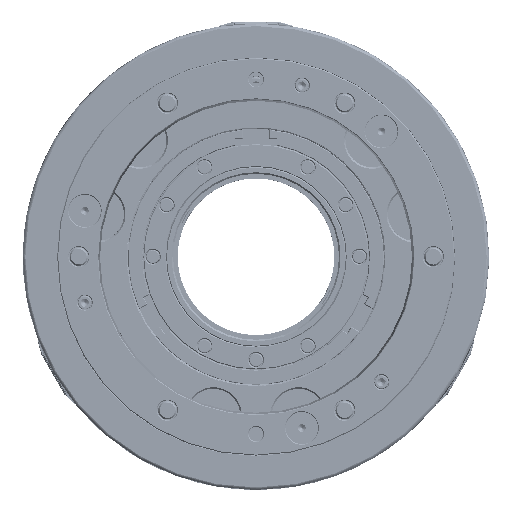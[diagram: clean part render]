
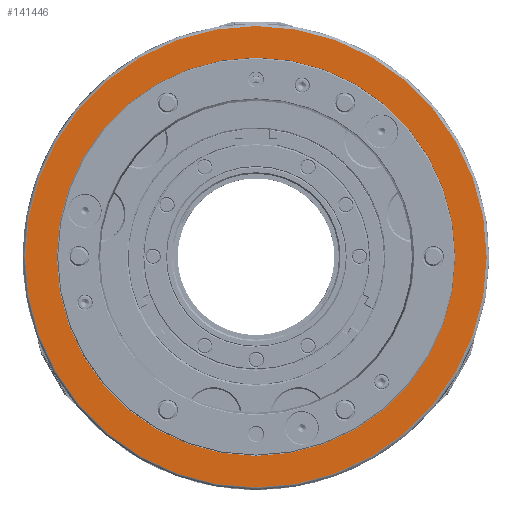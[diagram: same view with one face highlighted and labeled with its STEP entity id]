
A CAD part, front view. The second image highlights one B-rep face of the part: STEP entity #141446.
In plain terms, the highlighted planar face has unit normal (0, -1, 0).
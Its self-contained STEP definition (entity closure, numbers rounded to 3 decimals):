
#39117=PLANE('',#152438);
#40548=FACE_BOUND('',#53747,.T.);
#46247=FACE_OUTER_BOUND('',#53746,.T.);
#53746=EDGE_LOOP('',(#126772));
#53747=EDGE_LOOP('',(#126773));
#56685=CIRCLE('',#152439,301.64);
#56686=CIRCLE('',#152440,260.471);
#68556=VERTEX_POINT('',#231438);
#68557=VERTEX_POINT('',#231440);
#88502=EDGE_CURVE('',#68556,#68556,#56685,.T.);
#88503=EDGE_CURVE('',#68557,#68557,#56686,.T.);
#126772=ORIENTED_EDGE('',*,*,#88502,.F.);
#126773=ORIENTED_EDGE('',*,*,#88503,.F.);
#141446=ADVANCED_FACE('',(#46247,#40548),#39117,.F.);
#152438=AXIS2_PLACEMENT_3D('',#231437,#185894,#185895);
#152439=AXIS2_PLACEMENT_3D('',#231439,#185896,#185897);
#152440=AXIS2_PLACEMENT_3D('',#231441,#185898,#185899);
#185894=DIRECTION('center_axis',(0.,1.,0.));
#185895=DIRECTION('ref_axis',(0.,0.,1.));
#185896=DIRECTION('center_axis',(0.,1.,0.));
#185897=DIRECTION('ref_axis',(0.,0.,1.));
#185898=DIRECTION('center_axis',(0.,-1.,0.));
#185899=DIRECTION('ref_axis',(0.,0.,1.));
#231437=CARTESIAN_POINT('Origin',(0.,0.,0.));
#231438=CARTESIAN_POINT('',(0.,0.,
-301.64));
#231439=CARTESIAN_POINT('Origin',(0.,0.,0.));
#231440=CARTESIAN_POINT('',(0.,0.,
-260.471));
#231441=CARTESIAN_POINT('Origin',(0.,0.,0.));
